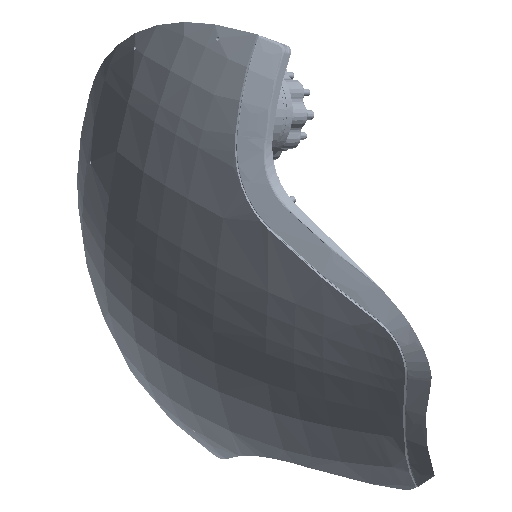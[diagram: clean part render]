
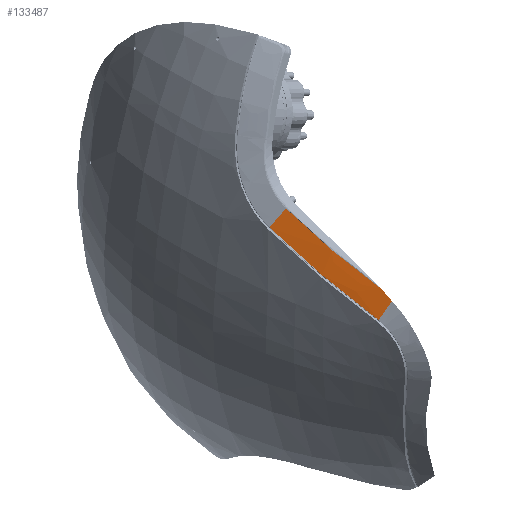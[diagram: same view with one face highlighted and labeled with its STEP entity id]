
A CAD part, isometric view. The second image highlights one B-rep face of the part: STEP entity #133487.
In plain terms, the highlighted free-form (B-spline) face has degree [3, 3] with [4, 10] control points.
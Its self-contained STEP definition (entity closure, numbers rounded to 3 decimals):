
#1533 = CARTESIAN_POINT ( 'NONE',  ( -102.07, -16.457, 34.28 ) ) ;
#1660 = EDGE_CURVE ( 'NONE', #33024, #212867, #165645, .T. ) ;
#3273 = EDGE_CURVE ( 'NONE', #138272, #242790, #168265, .T. ) ;
#4482 = CARTESIAN_POINT ( 'NONE',  ( -104.238, 4.296, 43.355 ) ) ;
#4528 = CARTESIAN_POINT ( 'NONE',  ( -98.724, -14.088, 40.79 ) ) ;
#5776 = CARTESIAN_POINT ( 'NONE',  ( -98.491, -25.621, 32.969 ) ) ;
#9452 = CARTESIAN_POINT ( 'NONE',  ( -103.901, -4.177, 39.585 ) ) ;
#11625 = CARTESIAN_POINT ( 'NONE',  ( -95.948, -44.994, 21.453 ) ) ;
#15859 = B_SPLINE_CURVE_WITH_KNOTS ( 'NONE', 3,
 ( #4482, #45663, #80660, #231893 ),
 .UNSPECIFIED., .F., .F.,
 ( 4, 4 ),
 ( 0.015, 0.917 ),
 .UNSPECIFIED. ) ;
#19987 = CARTESIAN_POINT ( 'NONE',  ( -94.317, -27.463, 37.697 ) ) ;
#23261 = CARTESIAN_POINT ( 'NONE',  ( -104.289, 4.319, 43.298 ) ) ;
#24380 = EDGE_CURVE ( 'NONE', #212867, #138272, #15859, .T. ) ;
#24486 = CARTESIAN_POINT ( 'NONE',  ( -93.927, -45.635, 24.042 ) ) ;
#26081 = CARTESIAN_POINT ( 'NONE',  ( -104.238, 4.296, 43.355 ) ) ;
#26950 = CARTESIAN_POINT ( 'NONE',  ( -95.988, -44.98, 21.403 ) ) ;
#33024 = VERTEX_POINT ( 'NONE', #11625 ) ;
#33940 = EDGE_LOOP ( 'NONE', ( #53616, #196780, #236221, #107992, #192826 ) ) ;
#39521 = CARTESIAN_POINT ( 'NONE',  ( -98.083, 1.581, 50.318 ) ) ;
#42411 = CARTESIAN_POINT ( 'NONE',  ( -95.052, -23.859, 39.254 ) ) ;
#43226 = CARTESIAN_POINT ( 'NONE',  ( -102.22, 3.406, 45.638 ) ) ;
#43636 = CARTESIAN_POINT ( 'NONE',  ( -92.738, -34.645, 34.594 ) ) ;
#44461 = CARTESIAN_POINT ( 'NONE',  ( -94.658, -34.323, 31.956 ) ) ;
#45663 = CARTESIAN_POINT ( 'NONE',  ( -102.206, 3.399, 45.653 ) ) ;
#45710 = CARTESIAN_POINT ( 'NONE',  ( -91.695, -38.962, 32.784 ) ) ;
#46931 = CARTESIAN_POINT ( 'NONE',  ( -101.833, -5.01, 41.974 ) ) ;
#53616 = ORIENTED_EDGE ( 'NONE', *, *, #111296, .F. ) ;
#58906 = B_SPLINE_SURFACE_WITH_KNOTS ( 'NONE', 3, 3, ( 
 ( #39521, #196838, #215652, #118172, #175612, #194339, #216900, #45710, #60741, #234437 ),
 ( #81961, #218127, #4528, #199298, #195579, #198064, #44461, #178108, #83183, #176852 ),
 ( #43226, #46931, #136882, #63225, #5776, #65681, #159354, #121874, #101935, #24486 ),
 ( #23261, #9452, #85649, #80712, #160584, #156876, #158123, #233184, #119406, #26950 ) ),
 .UNSPECIFIED., .F., .F., .F.,
 ( 4, 4 ),
 ( 4, 3, 3, 4 ),
 ( 0., 0.918 ),
 ( 0., 0.027, 0.04, 0.053 ),
 .UNSPECIFIED. ) ;
#58943 = CARTESIAN_POINT ( 'NONE',  ( -103.659, -4.036, 39.715 ) ) ;
#60176 = CARTESIAN_POINT ( 'NONE',  ( -103.448, -6.113, 38.808 ) ) ;
#60741 = CARTESIAN_POINT ( 'NONE',  ( -90.737, -42.953, 31.053 ) ) ;
#61165 = CARTESIAN_POINT ( 'NONE',  ( -91.047, -41.807, 31.498 ) ) ;
#63225 = CARTESIAN_POINT ( 'NONE',  ( -99.255, -21.529, 34.764 ) ) ;
#65681 = CARTESIAN_POINT ( 'NONE',  ( -97.618, -29.671, 31.181 ) ) ;
#68443 = CARTESIAN_POINT ( 'NONE',  ( -90.591, -46.687, 28.319 ) ) ;
#68654 = CARTESIAN_POINT ( 'NONE',  ( -94.162, -45.56, 23.741 ) ) ;
#80660 = CARTESIAN_POINT ( 'NONE',  ( -100.175, 2.501, 47.951 ) ) ;
#80712 = CARTESIAN_POINT ( 'NONE',  ( -101.306, -20.842, 32.278 ) ) ;
#81396 = CARTESIAN_POINT ( 'NONE',  ( -99.683, -28.759, 28.828 ) ) ;
#81961 = CARTESIAN_POINT ( 'NONE',  ( -100.152, 2.493, 47.978 ) ) ;
#83183 = CARTESIAN_POINT ( 'NONE',  ( -92.791, -42.317, 28.439 ) ) ;
#85649 = CARTESIAN_POINT ( 'NONE',  ( -102.84, -12.603, 35.915 ) ) ;
#97407 = CARTESIAN_POINT ( 'NONE',  ( -96.842, -12.995, 43.945 ) ) ;
#101116 = CARTESIAN_POINT ( 'NONE',  ( -91.895, -38.227, 33.046 ) ) ;
#101935 = CARTESIAN_POINT ( 'NONE',  ( -94.844, -41.682, 25.826 ) ) ;
#106151 = CARTESIAN_POINT ( 'NONE',  ( -95.948, -44.994, 21.453 ) ) ;
#107992 = ORIENTED_EDGE ( 'NONE', *, *, #1660, .F. ) ;
#109514 = B_SPLINE_CURVE_WITH_KNOTS ( 'NONE', 3,
 ( #243338, #163340, #164566, #68443 ),
 .UNSPECIFIED., .F., .F.,
 ( 4, 4 ),
 ( 0., 0.006 ),
 .UNSPECIFIED. ) ;
#111296 = EDGE_CURVE ( 'NONE', #242790, #169713, #109514, .T. ) ;
#115148 = CARTESIAN_POINT ( 'NONE',  ( -95.948, -44.994, 21.453 ) ) ;
#118172 = CARTESIAN_POINT ( 'NONE',  ( -95.152, -22.903, 39.737 ) ) ;
#119406 = CARTESIAN_POINT ( 'NONE',  ( -96.898, -41.047, 23.212 ) ) ;
#120069 = CARTESIAN_POINT ( 'NONE',  ( -104.14, 2.21, 42.447 ) ) ;
#121874 = CARTESIAN_POINT ( 'NONE',  ( -95.794, -37.702, 27.609 ) ) ;
#133487 = ADVANCED_FACE ( 'NONE', ( #210687 ), #58906, .F. ) ;
#135094 = CARTESIAN_POINT ( 'NONE',  ( -104.007, 0.125, 41.533 ) ) ;
#136882 = CARTESIAN_POINT ( 'NONE',  ( -100.782, -13.346, 38.353 ) ) ;
#138272 = VERTEX_POINT ( 'NONE', #172289 ) ;
#138545 = CARTESIAN_POINT ( 'NONE',  ( -97.971, -2.056, 48.668 ) ) ;
#142154 = EDGE_CURVE ( 'NONE', #33024, #169713, #231564, .T. ) ;
#156876 = CARTESIAN_POINT ( 'NONE',  ( -99.665, -29.029, 28.645 ) ) ;
#158123 = CARTESIAN_POINT ( 'NONE',  ( -98.755, -33.051, 26.833 ) ) ;
#159354 = CARTESIAN_POINT ( 'NONE',  ( -96.706, -33.687, 29.395 ) ) ;
#160584 = CARTESIAN_POINT ( 'NONE',  ( -100.54, -24.961, 30.459 ) ) ;
#163340 = CARTESIAN_POINT ( 'NONE',  ( -90.905, -43.431, 30.428 ) ) ;
#164566 = CARTESIAN_POINT ( 'NONE',  ( -90.751, -45.06, 29.367 ) ) ;
#165645 = B_SPLINE_CURVE_WITH_KNOTS ( 'NONE', 3,
 ( #115148, #212611, #172580, #81396, #232625, #1533, #230153, #60176, #58943, #135094, #120069, #196267 ),
 .UNSPECIFIED., .F., .F.,
 ( 4, 2, 2, 2, 2, 4 ),
 ( 0., 0.014, 0.027, 0.041, 0.048, 0.055 ),
 .UNSPECIFIED. ) ;
#168265 = B_SPLINE_CURVE_WITH_KNOTS ( 'NONE', 3,
 ( #234844, #138545, #231137, #97407, #214820, #42411, #19987, #43636, #101116, #61165 ),
 .UNSPECIFIED., .F., .F.,
 ( 4, 2, 2, 2, 4 ),
 ( 0., 0.012, 0.024, 0.036, 0.048 ),
 .UNSPECIFIED. ) ;
#169713 = VERTEX_POINT ( 'NONE', #196250 ) ;
#172289 = CARTESIAN_POINT ( 'NONE',  ( -98.143, 1.606, 50.249 ) ) ;
#172580 = CARTESIAN_POINT ( 'NONE',  ( -97.85, -36.892, 25.16 ) ) ;
#175612 = CARTESIAN_POINT ( 'NONE',  ( -94.395, -26.94, 37.991 ) ) ;
#176852 = CARTESIAN_POINT ( 'NONE',  ( -91.865, -46.29, 26.681 ) ) ;
#178108 = CARTESIAN_POINT ( 'NONE',  ( -93.745, -38.332, 30.196 ) ) ;
#182325 = CARTESIAN_POINT ( 'NONE',  ( -90.591, -46.687, 28.319 ) ) ;
#192826 = ORIENTED_EDGE ( 'NONE', *, *, #142154, .T. ) ;
#194339 = CARTESIAN_POINT ( 'NONE',  ( -93.524, -30.955, 36.253 ) ) ;
#195579 = CARTESIAN_POINT ( 'NONE',  ( -96.443, -26.28, 35.48 ) ) ;
#196250 = CARTESIAN_POINT ( 'NONE',  ( -90.591, -46.687, 28.319 ) ) ;
#196267 = CARTESIAN_POINT ( 'NONE',  ( -104.238, 4.296, 43.355 ) ) ;
#196780 = ORIENTED_EDGE ( 'NONE', *, *, #3273, .F. ) ;
#196838 = CARTESIAN_POINT ( 'NONE',  ( -97.698, -6.674, 46.751 ) ) ;
#198064 = CARTESIAN_POINT ( 'NONE',  ( -95.571, -30.313, 33.717 ) ) ;
#199298 = CARTESIAN_POINT ( 'NONE',  ( -97.203, -22.216, 37.25 ) ) ;
#210687 = FACE_OUTER_BOUND ( 'NONE', #33940, .T. ) ;
#212611 = CARTESIAN_POINT ( 'NONE',  ( -96.893, -40.941, 23.307 ) ) ;
#212867 = VERTEX_POINT ( 'NONE', #26081 ) ;
#214820 = CARTESIAN_POINT ( 'NONE',  ( -96.313, -16.624, 42.379 ) ) ;
#215652 = CARTESIAN_POINT ( 'NONE',  ( -96.666, -14.83, 43.228 ) ) ;
#216900 = CARTESIAN_POINT ( 'NONE',  ( -92.609, -34.958, 34.518 ) ) ;
#218127 = CARTESIAN_POINT ( 'NONE',  ( -99.765, -5.842, 44.362 ) ) ;
#221111 = CARTESIAN_POINT ( 'NONE',  ( -92.376, -46.128, 26.028 ) ) ;
#230153 = CARTESIAN_POINT ( 'NONE',  ( -102.707, -12.329, 36.088 ) ) ;
#231137 = CARTESIAN_POINT ( 'NONE',  ( -97.671, -5.712, 47.09 ) ) ;
#231564 = B_SPLINE_CURVE_WITH_KNOTS ( 'NONE', 3,
 ( #106151, #68654, #221111, #182325 ),
 .UNSPECIFIED., .F., .F.,
 ( 4, 4 ),
 ( 0.013, 0.809 ),
 .UNSPECIFIED. ) ;
#231893 = CARTESIAN_POINT ( 'NONE',  ( -98.143, 1.606, 50.249 ) ) ;
#232625 = CARTESIAN_POINT ( 'NONE',  ( -100.556, -24.676, 30.647 ) ) ;
#233033 = CARTESIAN_POINT ( 'NONE',  ( -91.047, -41.807, 31.498 ) ) ;
#233184 = CARTESIAN_POINT ( 'NONE',  ( -97.844, -37.073, 25.021 ) ) ;
#234437 = CARTESIAN_POINT ( 'NONE',  ( -89.804, -46.944, 29.32 ) ) ;
#234844 = CARTESIAN_POINT ( 'NONE',  ( -98.143, 1.606, 50.249 ) ) ;
#236221 = ORIENTED_EDGE ( 'NONE', *, *, #24380, .F. ) ;
#242790 = VERTEX_POINT ( 'NONE', #233033 ) ;
#243338 = CARTESIAN_POINT ( 'NONE',  ( -91.047, -41.807, 31.498 ) ) ;
